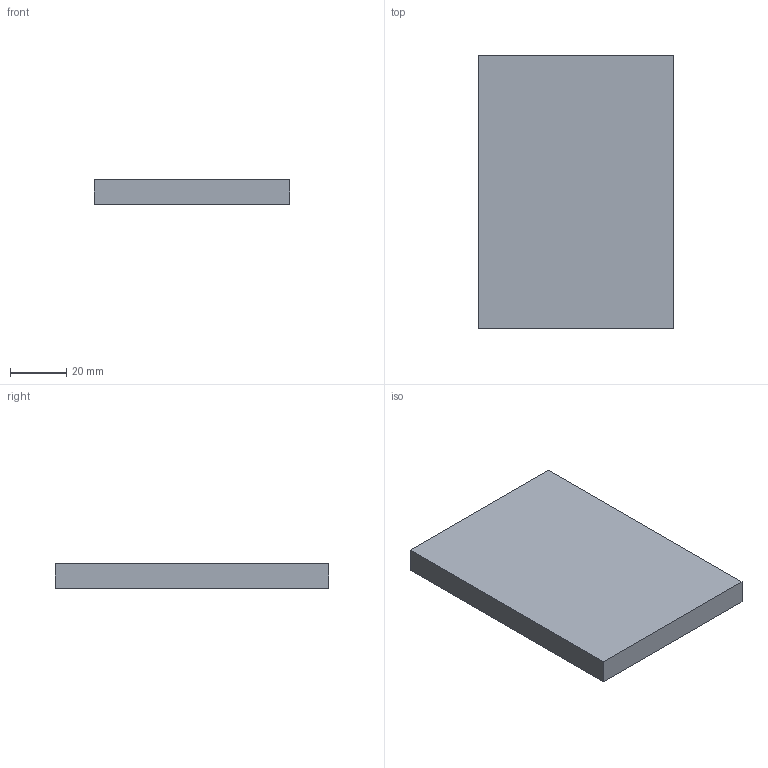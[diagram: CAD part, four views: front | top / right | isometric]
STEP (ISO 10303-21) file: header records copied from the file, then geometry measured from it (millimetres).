
FILE_DESCRIPTION (( 'STEP AP214' ), '1' );
FILE_NAME ('back.STEP', '2015-04-17T00:00:40', ( '' ), ( '' ), 'SwSTEP 2.0', 'SolidWorks 2012', '' );
FILE_SCHEMA (( 'AUTOMOTIVE_DESIGN' ));
Length unit declared in the file: inch
Products named in the file (1): back
Bounding box: 69.85 x 97.66 x 8.76 mm (x, y, z)
Volume: 59779.1 mm3; surface area: 16579.4 mm2
Topology: 1 solids, 1 shells, 6 faces, 12 edges, 8 vertices
Faces by surface type: plane 6
Entity records: 196 total; most frequent: CARTESIAN_POINT 27, DIRECTION 26, ORIENTED_EDGE 24, VECTOR 12, LINE 12, EDGE_CURVE 12, VERTEX_POINT 8, AXIS2_PLACEMENT_3D 7
